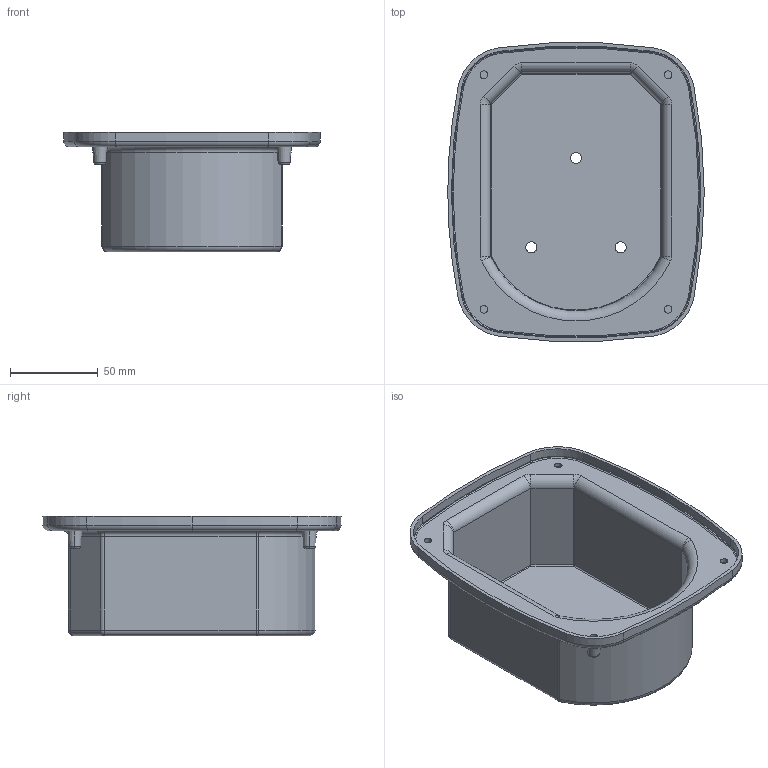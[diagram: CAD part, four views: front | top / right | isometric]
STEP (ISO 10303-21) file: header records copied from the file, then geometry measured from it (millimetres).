
FILE_DESCRIPTION (( 'STEP AP214' ), '1' );
FILE_NAME ('0-housing light.STEP', '2018-04-15T14:13:10', ( '' ), ( '' ), 'SwSTEP 2.0', 'SolidWorks 2018', '' );
FILE_SCHEMA (( 'AUTOMOTIVE_DESIGN' ));
Length unit declared in the file: inch
Products named in the file (1): 0-housing light
Bounding box: 145.75 x 169.49 x 67.94 mm (x, y, z)
Volume: 124461.7 mm3; surface area: 100356.6 mm2
Topology: 1 solids, 1 shells, 152 faces, 341 edges, 199 vertices
Faces by surface type: cylinder 66, torus 42, plane 24, sphere 12, cone 8
Entity records: 4290 total; most frequent: DIRECTION 876, CARTESIAN_POINT 689, ORIENTED_EDGE 674, AXIS2_PLACEMENT_3D 386, EDGE_CURVE 337, CIRCLE 233, VERTEX_POINT 199, EDGE_LOOP 170
